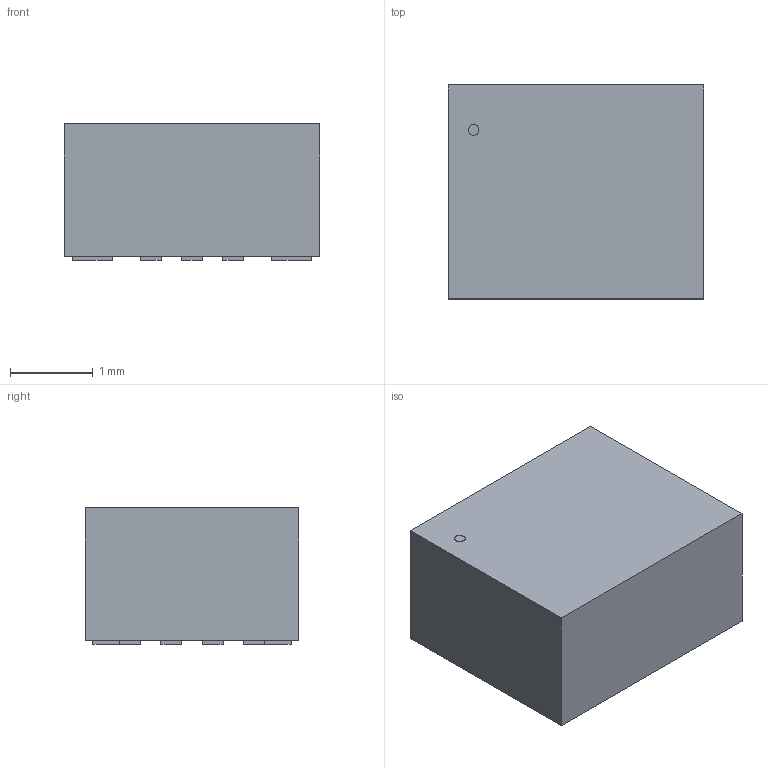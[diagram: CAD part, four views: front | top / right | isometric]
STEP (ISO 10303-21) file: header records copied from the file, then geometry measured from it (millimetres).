
FILE_DESCRIPTION (( 'STEP AP214' ), '1' );
FILE_NAME ('COMPOUND-17_ISM330DHCXTR_navX2-mxp-cad.step', '2025-12-23T15:53:41', ( '' ), ( '' ), 'SwSTEP 2.0', 'SolidWorks 2026', '' );
FILE_SCHEMA (( 'AUTOMOTIVE_DESIGN' ));
Length unit declared in the file: inch
Products named in the file (1): COMPOUND-17_ISM330DHCXTR_navX2-mxp-cad
Bounding box: 3.1 x 2.59 x 1.65 mm (x, y, z)
Volume: 12.9 mm3; surface area: 38.8 mm2
Topology: 16 solids, 16 shells, 94 faces, 186 edges, 124 vertices
Faces by surface type: plane 92, cylinder 2
Entity records: 2566 total; most frequent: CARTESIAN_POINT 405, DIRECTION 380, ORIENTED_EDGE 372, EDGE_CURVE 186, LINE 182, VECTOR 182, VERTEX_POINT 124, AXIS2_PLACEMENT_3D 99
